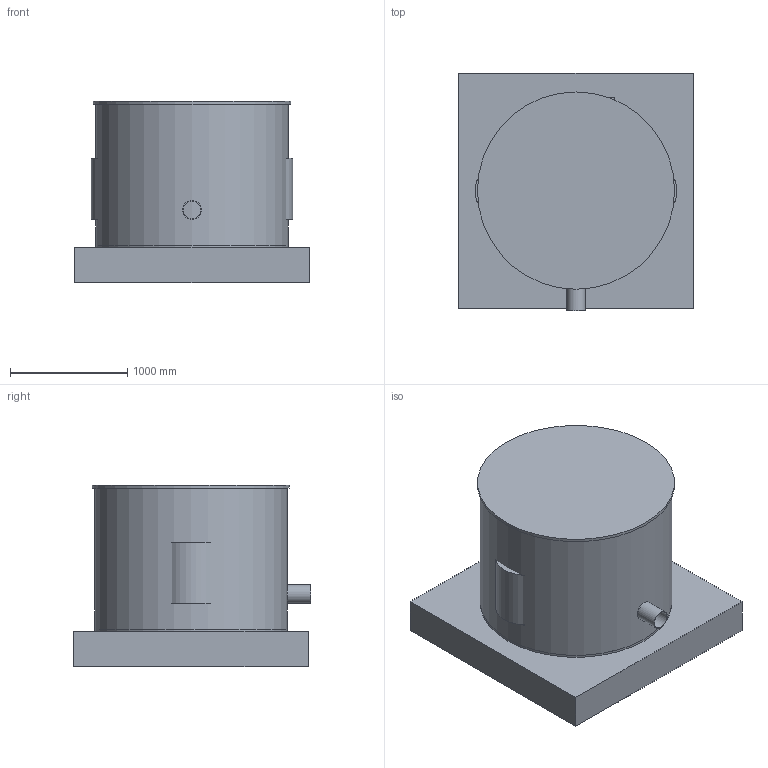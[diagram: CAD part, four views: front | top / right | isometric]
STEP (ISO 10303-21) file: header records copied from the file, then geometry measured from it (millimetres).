
FILE_DESCRIPTION(('Open CASCADE Model'),'2;1');
FILE_NAME('Open CASCADE Shape Model','2026-11-13T06:54:12',('Author'),( 'Open CASCADE'),'Open CASCADE STEP processor 7.9','Open CASCADE 7.9' ,'Unknown');
FILE_SCHEMA(('AUTOMOTIVE_DESIGN { 1 0 10303 214 1 1 1 1 }'));
Length unit declared in the file: millimetre
Products named in the file (31): T4a_vacuum_balance; 00_CHAMBER; 01_CHAMBER_FLOOR; 02_LID; 03_POST; 04_PIVOT; 05_PIVOT_FORK; 06_ARM; 07_TEST_MODULE_CAN; 08_TEST_MODULE_MOUNT; 09_DISK; 10_PIEZO_STACK; 11_HV_BUSHING; 12_ROTARY_STAGE; 13_HV_MODULE; 14_BATTERY; 15_RF_+_MCU; 16_DUMMY_MODULE_CAN; 17_DUMMY_MODULE_MOUNT; 18_DUMMY_MASS; 19_MIRROR; 20_INTERFEROMETER; 21_IFM_POST; 22_COMB_MOVING; 23_COMB_FIXED; 24_DAMPER_VANE; 25_DAMPER_MAGNETS; 26_CAGE; 27_IR_LINK; 28_PUMP_PORT; 29_BASE
Assembly tree (30 placements, depth 2):
  T4a_vacuum_balance
    00_CHAMBER
    01_CHAMBER_FLOOR
    02_LID
    03_POST
    04_PIVOT
    05_PIVOT_FORK
    06_ARM
    07_TEST_MODULE_CAN
    08_TEST_MODULE_MOUNT
    09_DISK
    10_PIEZO_STACK
    11_HV_BUSHING
    12_ROTARY_STAGE
    13_HV_MODULE
    14_BATTERY
    15_RF_+_MCU
    16_DUMMY_MODULE_CAN
    17_DUMMY_MODULE_MOUNT
    18_DUMMY_MASS
    19_MIRROR
    20_INTERFEROMETER
    21_IFM_POST
    22_COMB_MOVING
    23_COMB_FIXED
    24_DAMPER_VANE
    25_DAMPER_MAGNETS
    26_CAGE
    27_IR_LINK
    28_PUMP_PORT
    29_BASE
Bounding box: 2000 x 2020 x 1545 mm (x, y, z)
Volume: 1377438092.3 mm3; surface area: 38957399.3 mm2
Topology: 30 solids, 33 shells, 164 faces, 282 edges, 188 vertices
Faces by surface type: plane 142, cylinder 22
Full cylindrical faces by diameter (mm): 36 x1, 40 x1, 50 x1, 80 x1, 100 x1, 120 x1, 140 x1, 150 x1, 160 x1, 300 x1, 518 x2, 520 x6, 1620 x1, 1640 x2, 1680 x1
Entity records: 8269 total; most frequent: DIRECTION 1272, CARTESIAN_POINT 1237, LINE 750, VECTOR 750, ORIENTED_EDGE 564, PCURVE 564, DEFINITIONAL_REPRESENTATION 564, EDGE_CURVE 282
